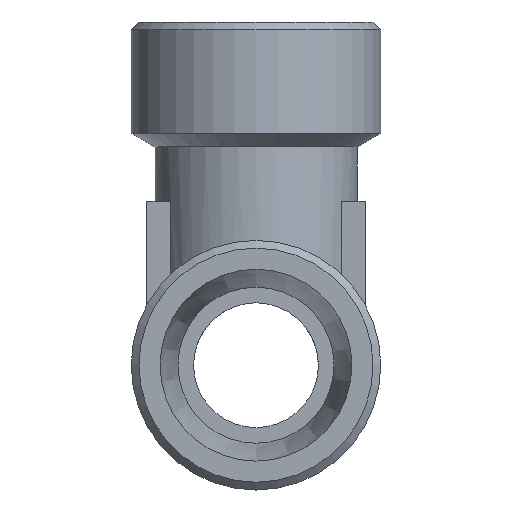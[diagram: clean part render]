
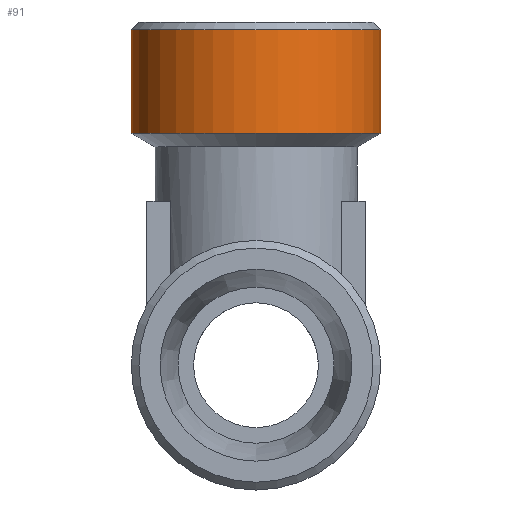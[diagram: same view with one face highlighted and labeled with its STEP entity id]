
A CAD part, left-side view. The second image highlights one B-rep face of the part: STEP entity #91.
In plain terms, the highlighted cylindrical face has radius 8 mm (diameter 16 mm), a full revolution.
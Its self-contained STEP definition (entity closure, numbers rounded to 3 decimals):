
#91 = ADVANCED_FACE( '', ( #218, #219 ), #220, .T. );
#218 = FACE_OUTER_BOUND( '', #393, .T. );
#219 = FACE_OUTER_BOUND( '', #394, .T. );
#220 = CYLINDRICAL_SURFACE( '', #395, 8. );
#393 = EDGE_LOOP( '', ( #603 ) );
#394 = EDGE_LOOP( '', ( #604 ) );
#395 = AXIS2_PLACEMENT_3D( '', #605, #606, #607 );
#603 = ORIENTED_EDGE( '', *, *, #935, .T. );
#604 = ORIENTED_EDGE( '', *, *, #899, .F. );
#605 = CARTESIAN_POINT( '', ( 0., 0., 54. ) );
#606 = DIRECTION( '', ( 0., 0., 1. ) );
#607 = DIRECTION( '', ( -1., 0., 0. ) );
#899 = EDGE_CURVE( '', #1041, #1041, #1042, .T. );
#935 = EDGE_CURVE( '', #1103, #1103, #1104, .T. );
#1041 = VERTEX_POINT( '', #1246 );
#1042 = CIRCLE( '', #1247, 8. );
#1103 = VERTEX_POINT( '', #1331 );
#1104 = CIRCLE( '', #1332, 8. );
#1246 = CARTESIAN_POINT( '', ( -8., 0., 14.866 ) );
#1247 = AXIS2_PLACEMENT_3D( '', #1505, #1506, #1507 );
#1331 = CARTESIAN_POINT( '', ( -8., 0., 21.5 ) );
#1332 = AXIS2_PLACEMENT_3D( '', #1553, #1554, #1555 );
#1505 = CARTESIAN_POINT( '', ( 0., 0., 14.866 ) );
#1506 = DIRECTION( '', ( 0., 0., -1. ) );
#1507 = DIRECTION( '', ( -1., 0., 0. ) );
#1553 = CARTESIAN_POINT( '', ( 0., 0., 21.5 ) );
#1554 = DIRECTION( '', ( 0., 0., -1. ) );
#1555 = DIRECTION( '', ( -1., 0., 0. ) );
